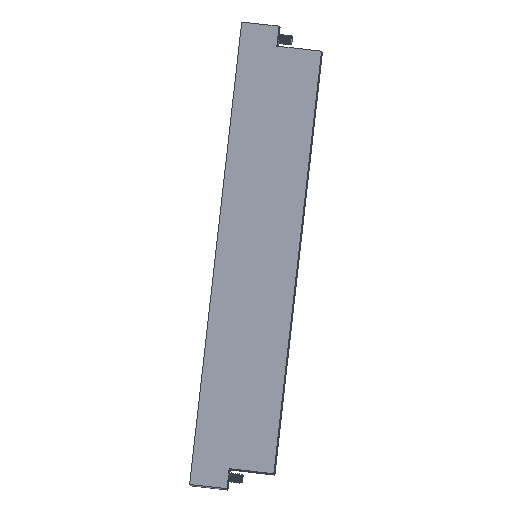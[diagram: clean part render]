
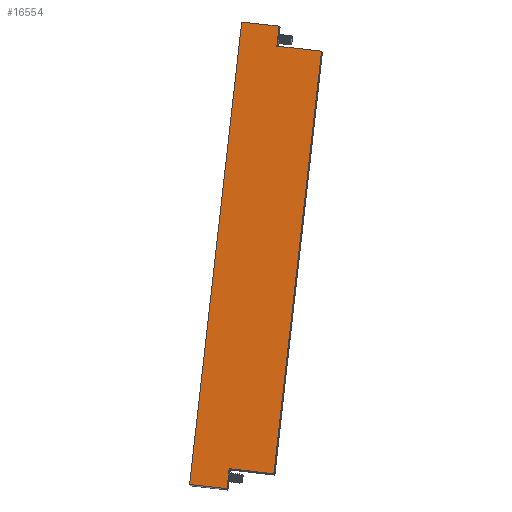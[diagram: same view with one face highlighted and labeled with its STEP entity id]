
A CAD part, front view. The second image highlights one B-rep face of the part: STEP entity #16554.
In plain terms, the highlighted planar face has unit normal (-0.02, -0.999, 0.029).
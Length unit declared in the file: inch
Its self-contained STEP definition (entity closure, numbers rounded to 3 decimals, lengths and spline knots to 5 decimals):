
#3152=CARTESIAN_POINT('',(-0.3895,-0.35994,-2.59624));
#3153=VERTEX_POINT('',#3152);
#3160=CARTESIAN_POINT('',(-0.41725,-0.36642,-2.8426));
#3161=VERTEX_POINT('',#3160);
#3162=CARTESIAN_POINT('',(-0.3895,-0.35994,-2.59624));
#3163=DIRECTION('',(-0.112,-0.026,-0.993));
#3164=VECTOR('',#3163,0.248);
#3165=LINE('',#3162,#3164);
#3166=EDGE_CURVE('',#3153,#3161,#3165,.T.);
#3273=CARTESIAN_POINT('',(0.22626,-0.21617,2.8693));
#3274=VERTEX_POINT('',#3273);
#3281=CARTESIAN_POINT('',(0.1985,-0.22265,2.62295));
#3282=VERTEX_POINT('',#3281);
#3283=CARTESIAN_POINT('',(0.22626,-0.21617,2.8693));
#3284=DIRECTION('',(-0.112,-0.026,-0.993));
#3285=VECTOR('',#3284,0.248);
#3286=LINE('',#3283,#3285);
#3287=EDGE_CURVE('',#3274,#3282,#3286,.T.);
#3381=CARTESIAN_POINT('',(0.16191,-0.37262,-2.65803));
#3382=VERTEX_POINT('',#3381);
#3389=CARTESIAN_POINT('',(-0.3895,-0.35994,-2.59624));
#3390=DIRECTION('',(0.994,-0.023,-0.111));
#3391=VECTOR('',#3390,0.555);
#3392=LINE('',#3389,#3391);
#3393=EDGE_CURVE('',#3153,#3382,#3392,.T.);
#16464=CARTESIAN_POINT('',(0.74991,-0.23534,2.56116));
#16465=VERTEX_POINT('',#16464);
#16472=CARTESIAN_POINT('',(0.16191,-0.37262,-2.65803));
#16473=DIRECTION('',(0.112,0.026,0.993));
#16474=VECTOR('',#16473,5.254);
#16475=LINE('',#16472,#16474);
#16476=EDGE_CURVE('',#3382,#16465,#16475,.T.);
#16506=CARTESIAN_POINT('',(0.1985,-0.22265,2.62295));
#16507=DIRECTION('',(0.994,-0.023,-0.111));
#16508=VECTOR('',#16507,0.555);
#16509=LINE('',#16506,#16508);
#16510=EDGE_CURVE('',#3282,#16465,#16509,.T.);
#16520=CARTESIAN_POINT('',(0.22626,-0.21617,2.8693));
#16521=DIRECTION('',(-0.02,-0.999,0.029));
#16522=DIRECTION('',(0.112,0.026,0.993));
#16523=AXIS2_PLACEMENT_3D('',#16520,#16521,#16522);
#16524=PLANE('',#16523);
#16525=CARTESIAN_POINT('',(-0.23573,-0.20555,2.92107));
#16526=VERTEX_POINT('',#16525);
#16527=CARTESIAN_POINT('',(-0.87924,-0.35579,-2.79083));
#16528=VERTEX_POINT('',#16527);
#16529=CARTESIAN_POINT('',(-0.23573,-0.20555,2.92107));
#16530=DIRECTION('',(-0.112,-0.026,-0.993));
#16531=VECTOR('',#16530,5.75);
#16532=LINE('',#16529,#16531);
#16533=EDGE_CURVE('',#16526,#16528,#16532,.T.);
#16534=ORIENTED_EDGE('',*,*,#16533,.T.);
#16535=CARTESIAN_POINT('',(-0.41725,-0.36642,-2.8426));
#16536=DIRECTION('',(-0.994,0.023,0.111));
#16537=VECTOR('',#16536,0.465);
#16538=LINE('',#16535,#16537);
#16539=EDGE_CURVE('',#3161,#16528,#16538,.T.);
#16540=ORIENTED_EDGE('',*,*,#16539,.F.);
#16541=ORIENTED_EDGE('',*,*,#3166,.F.);
#16542=ORIENTED_EDGE('',*,*,#3393,.T.);
#16543=ORIENTED_EDGE('',*,*,#16476,.T.);
#16544=ORIENTED_EDGE('',*,*,#16510,.F.);
#16545=ORIENTED_EDGE('',*,*,#3287,.F.);
#16546=CARTESIAN_POINT('',(0.22626,-0.21617,2.8693));
#16547=DIRECTION('',(-0.994,0.023,0.111));
#16548=VECTOR('',#16547,0.465);
#16549=LINE('',#16546,#16548);
#16550=EDGE_CURVE('',#3274,#16526,#16549,.T.);
#16551=ORIENTED_EDGE('',*,*,#16550,.T.);
#16552=EDGE_LOOP('',(#16534,#16540,#16541,#16542,#16543,#16544,#16545,#16551));
#16553=FACE_OUTER_BOUND('',#16552,.T.);
#16554=ADVANCED_FACE('',(#16553),#16524,.T.);
